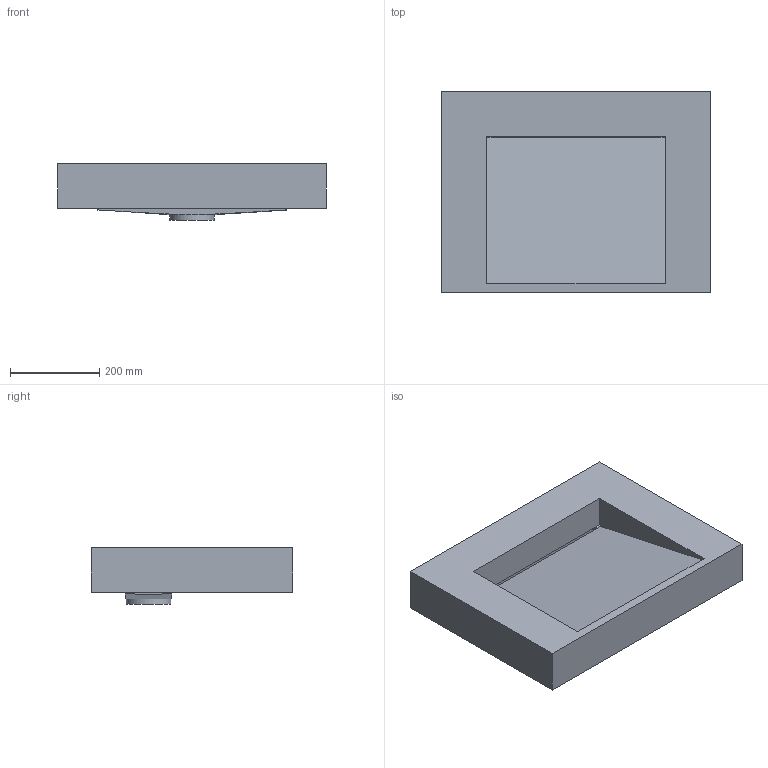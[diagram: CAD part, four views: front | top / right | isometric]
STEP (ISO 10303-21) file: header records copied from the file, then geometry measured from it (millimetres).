
FILE_DESCRIPTION(/* description */ (''),/* implementation_level */ '2;1');
FILE_NAME(/* name */ 'Wall-Hung Basin 600.stp',/* time_stamp */ '2025-10-25T10:50:25+08:00',/* author */ (''),/* organization */ (''),/* preprocessor_version */ 'ST-DEVELOPER v20',/* originating_system */ 'SIEMENS PLM Software NX2412.4001',/* authorisation */ '');
FILE_SCHEMA (('AUTOMOTIVE_DESIGN { 1 0 10303 214 3 1 1 1 }'));
Length unit declared in the file: millimetre
Products named in the file (1): Wall-Hung Basin 600
Bounding box: 600 x 450 x 127 mm (x, y, z)
Volume: 7579078 mm3; surface area: 1166171.2 mm2
Topology: 1 solids, 1 shells, 46 faces, 120 edges, 77 vertices
Faces by surface type: plane 37, cylinder 6, cone 3
Full cylindrical faces by diameter (mm): 45 x1, 100 x1
Entity records: 1418 total; most frequent: CARTESIAN_POINT 299, ORIENTED_EDGE 226, DIRECTION 212, EDGE_CURVE 113, LINE 92, VECTOR 92, VERTEX_POINT 75, AXIS2_PLACEMENT_3D 60
